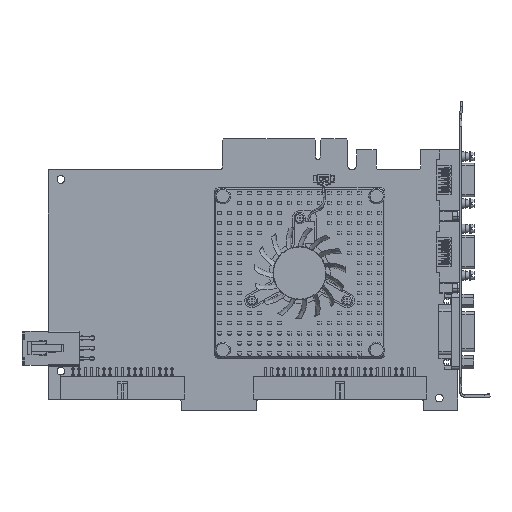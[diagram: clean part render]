
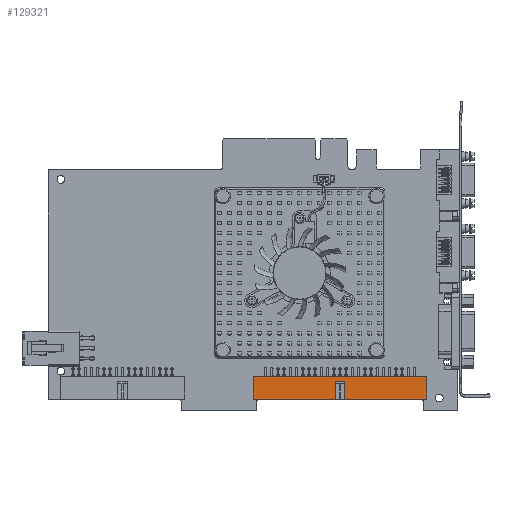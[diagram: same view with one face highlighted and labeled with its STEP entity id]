
A CAD part, top view. The second image highlights one B-rep face of the part: STEP entity #129321.
In plain terms, the highlighted planar face has unit normal (0, 0, 1).
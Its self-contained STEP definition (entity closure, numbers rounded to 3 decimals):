
#3908=DIRECTION('',(1.,0.,0.));
#3909=VECTOR('',#3908,33.528);
#3910=CARTESIAN_POINT('',(-83.69,-102.155,10.236));
#3911=LINE('',#3910,#3909);
#3940=DIRECTION('',(1.,0.,0.));
#3941=VECTOR('',#3940,33.528);
#3942=CARTESIAN_POINT('',(-46.098,-102.155,10.236));
#3943=LINE('',#3942,#3941);
#20961=DIRECTION('',(1.,0.,0.));
#20962=VECTOR('',#20961,71.12);
#20963=CARTESIAN_POINT('',(-83.69,-92.757,10.236));
#20964=LINE('',#20963,#20962);
#21869=DIRECTION('',(0.,1.,0.));
#21870=VECTOR('',#21869,9.398);
#21871=CARTESIAN_POINT('',(-12.57,-102.155,10.236));
#21872=LINE('',#21871,#21870);
#21873=DIRECTION('',(0.,1.,0.));
#21874=VECTOR('',#21873,7.366);
#21875=CARTESIAN_POINT('',(-46.098,-102.155,10.236));
#21876=LINE('',#21875,#21874);
#21877=DIRECTION('',(-1.,0.,0.));
#21878=VECTOR('',#21877,4.064);
#21879=CARTESIAN_POINT('',(-46.098,-94.789,10.236));
#21880=LINE('',#21879,#21878);
#21881=DIRECTION('',(0.,1.,0.));
#21882=VECTOR('',#21881,7.366);
#21883=CARTESIAN_POINT('',(-50.162,-102.155,10.236));
#21884=LINE('',#21883,#21882);
#21885=DIRECTION('',(0.,1.,0.));
#21886=VECTOR('',#21885,9.398);
#21887=CARTESIAN_POINT('',(-83.69,-102.155,10.236));
#21888=LINE('',#21887,#21886);
#78816=CARTESIAN_POINT('',(-83.69,-92.757,10.236));
#78817=CARTESIAN_POINT('',(-12.57,-92.757,10.236));
#78818=VERTEX_POINT('',#78816);
#78819=VERTEX_POINT('',#78817);
#78820=CARTESIAN_POINT('',(-83.69,-102.155,10.236));
#78821=VERTEX_POINT('',#78820);
#78822=CARTESIAN_POINT('',(-12.57,-102.155,10.236));
#78823=VERTEX_POINT('',#78822);
#79725=CARTESIAN_POINT('',(-46.098,-102.155,10.236));
#79727=VERTEX_POINT('',#79725);
#79729=CARTESIAN_POINT('',(-50.162,-102.155,10.236));
#79731=VERTEX_POINT('',#79729);
#79732=CARTESIAN_POINT('',(-46.098,-94.789,10.236));
#79733=VERTEX_POINT('',#79732);
#79734=CARTESIAN_POINT('',(-50.162,-94.789,10.236));
#79735=VERTEX_POINT('',#79734);
#129303=CARTESIAN_POINT('',(-83.69,-102.155,10.236));
#129304=DIRECTION('',(0.,0.,1.));
#129305=DIRECTION('',(1.,0.,0.));
#129306=AXIS2_PLACEMENT_3D('',#129303,#129304,#129305);
#129307=PLANE('',#129306);
#129309=ORIENTED_EDGE('',*,*,#129308,.T.);
#129311=ORIENTED_EDGE('',*,*,#129310,.T.);
#129313=ORIENTED_EDGE('',*,*,#129312,.F.);
#129314=ORIENTED_EDGE('',*,*,#94003,.F.);
#129315=ORIENTED_EDGE('',*,*,#128674,.T.);
#129316=ORIENTED_EDGE('',*,*,#128694,.T.);
#129317=ORIENTED_EDGE('',*,*,#129290,.F.);
#129318=ORIENTED_EDGE('',*,*,#94019,.F.);
#129319=EDGE_LOOP('',(#129309,#129311,#129313,#129314,#129315,#129316,#129317,
#129318));
#129320=FACE_OUTER_BOUND('',#129319,.F.);
#94003=EDGE_CURVE('',#78821,#79731,#3911,.T.);
#94019=EDGE_CURVE('',#79727,#78823,#3943,.T.);
#128674=EDGE_CURVE('',#78821,#78818,#21888,.T.);
#128694=EDGE_CURVE('',#78818,#78819,#20964,.T.);
#129290=EDGE_CURVE('',#78823,#78819,#21872,.T.);
#129308=EDGE_CURVE('',#79727,#79733,#21876,.T.);
#129310=EDGE_CURVE('',#79733,#79735,#21880,.T.);
#129312=EDGE_CURVE('',#79731,#79735,#21884,.T.);
#129321=ADVANCED_FACE('',(#129320),#129307,.T.);
